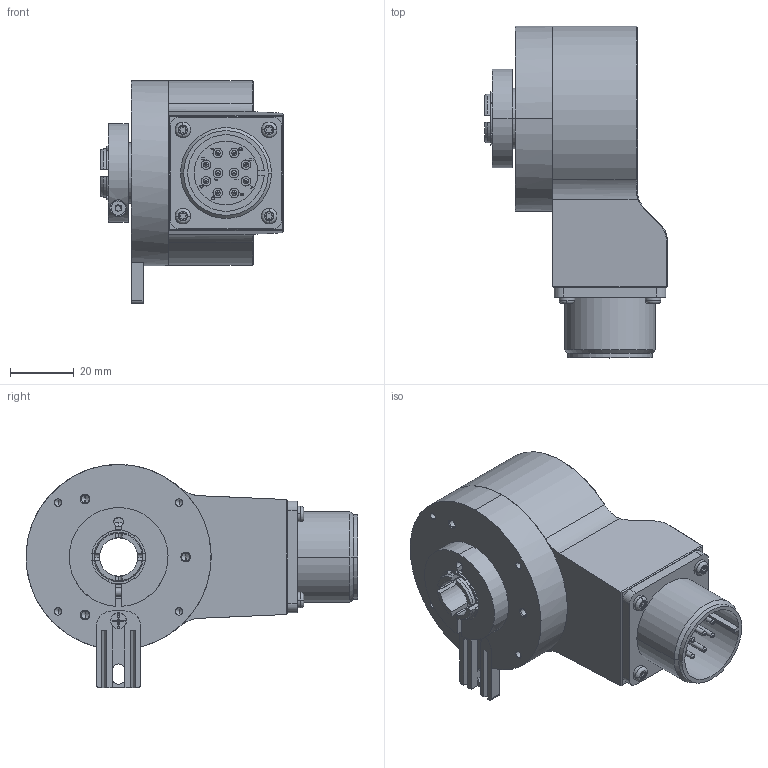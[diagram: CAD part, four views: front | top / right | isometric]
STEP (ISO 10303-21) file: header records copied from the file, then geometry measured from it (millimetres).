
FILE_DESCRIPTION (( 'STEP AP203' ), '1' );
FILE_NAME ('K58I.OXX.XXXXX.XH21512.6XRCE.step', '2025-12-08T13:54:12', ( '' ), ( '' ), 'SwSTEP 2.0', 'SolidWorks 2021', '' );
FILE_SCHEMA (( 'CONFIG_CONTROL_DESIGN' ));
Length unit declared in the file: millimetre
Products named in the file (1): K58I.OXX.XXXXX.XH21512.6XRCE
Bounding box: 57.3 x 104 x 69.9 mm (x, y, z)
Volume: 142133.6 mm3; surface area: 44321.5 mm2
Topology: 8 solids, 8 shells, 634 faces, 1592 edges, 1018 vertices
Faces by surface type: plane 254, cylinder 242, cone 55, bspline 55, torus 28
Entity records: 23218 total; most frequent: CARTESIAN_POINT 8001, ORIENTED_EDGE 3156, DIRECTION 3138, EDGE_CURVE 1578, AXIS2_PLACEMENT_3D 1154, VERTEX_POINT 1018, LINE 830, VECTOR 830
